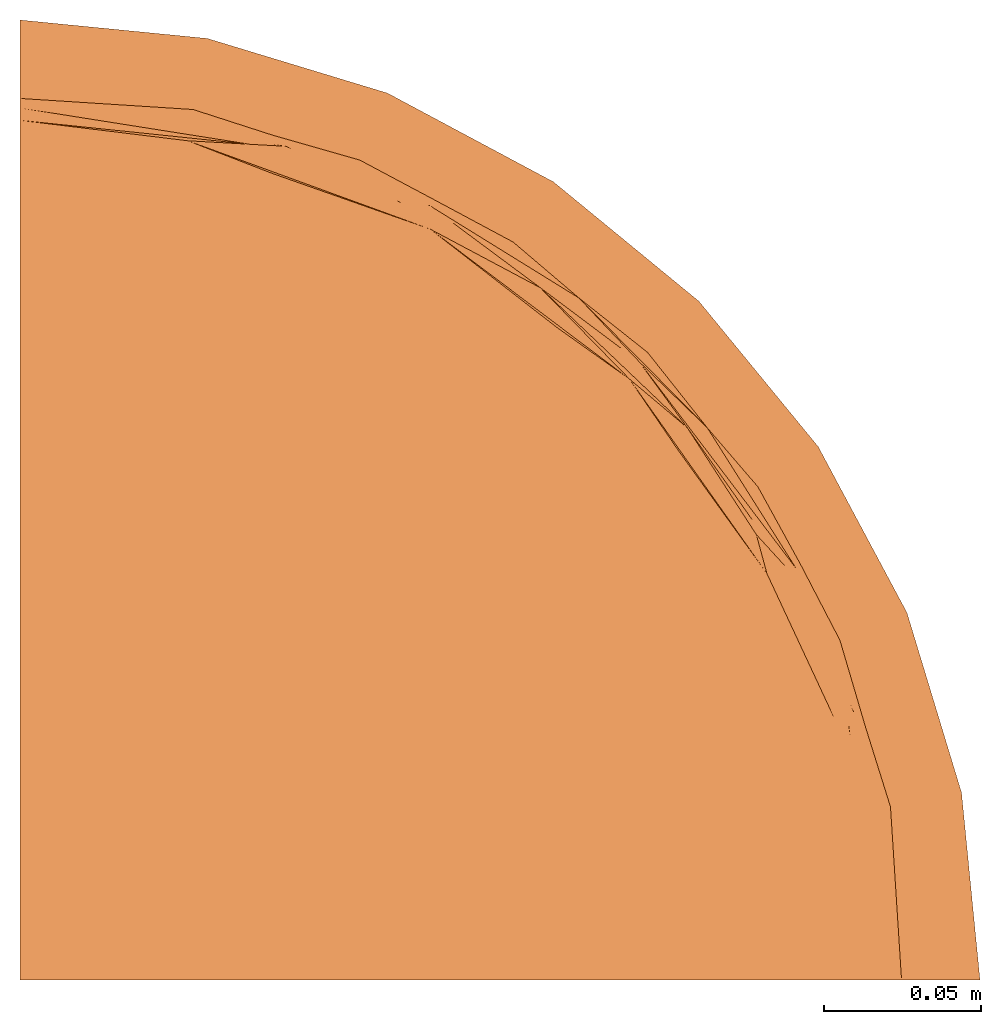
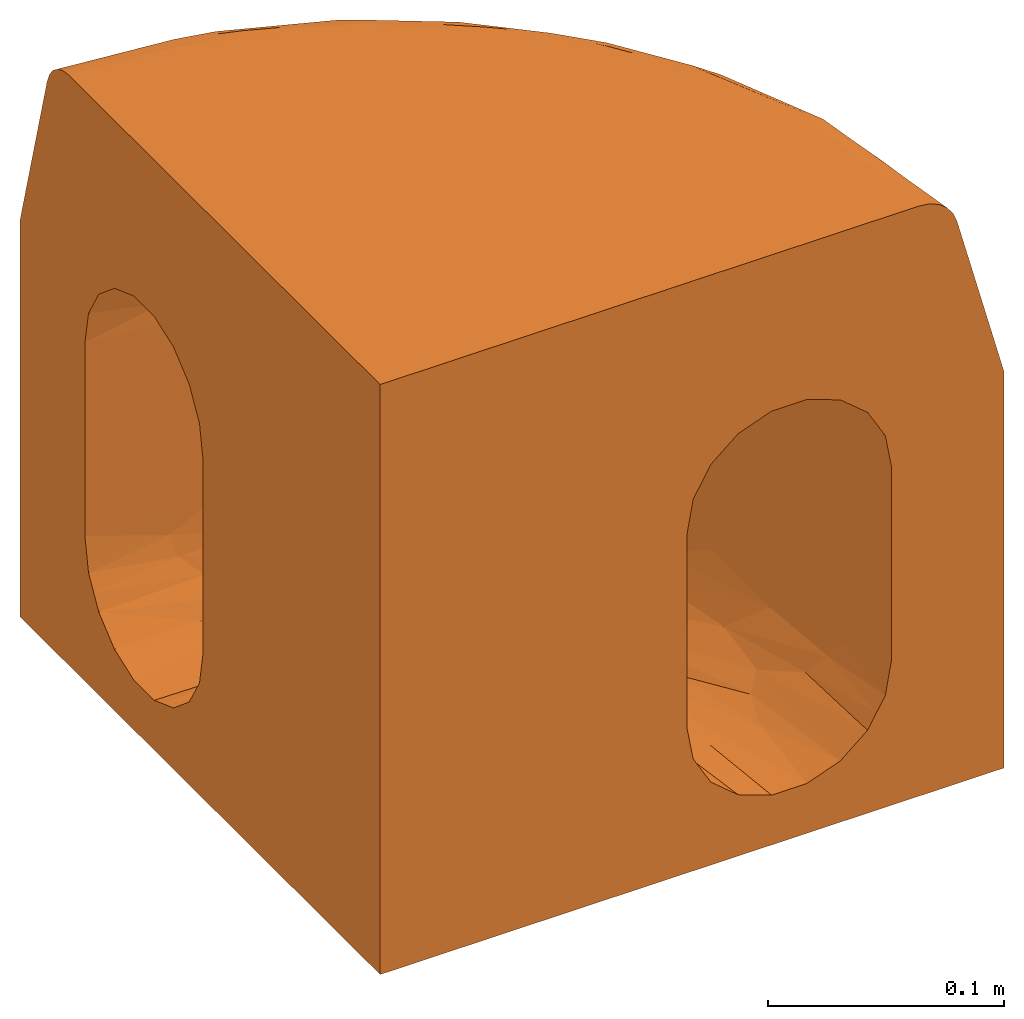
# One storey: 1 proxy.
"""IFC2X3 building model written with IfcOpenShell, lengths in millimetres."""

from ifc_helpers import new_model, entity, si_unit, converted_unit, direction, frame, origin, place, context, subcontext, project, spatial, faceted_brep, source, transform, mapped, material, element, save


model = new_model("IFC2X3")

# Units and contexts
model_context = context("Model", 3, precision=1e-06, world=origin(), true_north=direction((2.0, 6.12303176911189e-17, 1.0)))
context_of_model = context(None, 3, precision=1e-06, world=origin(), true_north=direction((2.0, 6.12303176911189e-17, 1.0)))
body_context = subcontext(model_context, "Body", "Model", "MODEL_VIEW")
ifc_project = project(units=[si_unit("LENGTHUNIT", "METRE", prefix="MILLI"), si_unit("AREAUNIT", "SQUARE_METRE", prefix="MILLI"), si_unit("VOLUMEUNIT", "CUBIC_METRE", prefix="MILLI"), converted_unit("PLANEANGLEUNIT", "DEGREE", entity("IfcRatioMeasure", 0.0174532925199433), si_unit("PLANEANGLEUNIT", "RADIAN"), dimensions=[0, 0, 0, 0, 0, 0, 0]), si_unit("TIMEUNIT", "SECOND")], contexts=[model_context, context_of_model])

# Site, building, storey
site_placement = place(None, origin())
site = spatial("IfcSite", under=ifc_project, at=site_placement, Name="Default", CompositionType="ELEMENT")
building_placement = place(site_placement, origin())
building = spatial("IfcBuilding", under=site, at=building_placement, CompositionType="ELEMENT")
storey_placement = place(building_placement, frame((0.0, 0.0, -300.0)))
storey = spatial("IfcBuildingStorey", under=building, at=storey_placement, Name="T.O. Fnd. Wall", CompositionType="ELEMENT", Elevation=-300.0)

# Proxy
ifc_material = material(Name="ACO Polymer Concrete.")
shared_shape = source(origin(), body_context, "Body", "Brep", [
    faceted_brep([(-152.499999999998, 0.0125862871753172, -180.0), (38.8142625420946, 0.0125862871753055, -154.239800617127), (30.654329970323, 0.0125862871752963, -151.268917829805), (22.4943973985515, 0.0125862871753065, -148.298035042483), (15.8416135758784, 0.0125862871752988, -142.713374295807), (9.18882975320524, 0.0125862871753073, -137.128713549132), (152.500000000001, 0.0125862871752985, -180.0), (56.1733638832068, 0.0125862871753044, -154.241981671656), (-2.49999999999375, 0.012586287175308, -105.0), (-2.49999999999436, 0.012586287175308, -5.0), (-152.5, 0.0125862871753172, 125.0), (0.513804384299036, 0.0125862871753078, -122.096707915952), (72.5019398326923, 0.0125862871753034, -148.300150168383), (64.3376518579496, 0.0125862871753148, -151.27106592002), (94.485129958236, 0.0125862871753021, -122.099636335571), (90.1409608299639, 0.0125862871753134, -129.622743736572), (85.7967917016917, 0.0125862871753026, -137.145851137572), (97.4999999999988, 0.0125862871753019, -105.0), (152.5, 0.0125862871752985, 25.0), (97.4999999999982, 0.0125862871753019, -5.0), (94.4861956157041, 0.0125862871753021, 12.0967079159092), (0.514870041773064, 0.0125862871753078, 12.0996363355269), (4.85903917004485, 0.0125862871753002, 19.622743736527), (9.20320829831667, 0.0125862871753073, 27.1458511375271), (22.4980601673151, 0.0125862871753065, 38.3001501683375), (30.6623481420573, 0.0125862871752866, 41.2710659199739), (111.125867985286, 0.0125862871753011, 125.0), (15.8506342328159, 0.0125862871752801, 32.7230006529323), (38.8266361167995, 0.0125862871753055, 44.2419816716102), (56.1857374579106, 0.0125862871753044, 44.2398006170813), (64.3456700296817, 0.0125862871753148, 41.2689178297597), (72.5056026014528, 0.0125862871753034, 38.298035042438), (116.043429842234, 0.0125862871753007, 124.352590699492), (129.478458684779, 0.0125862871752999, 110.917561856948), (127.580350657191, 0.0125862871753, 115.5), (120.625867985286, 0.0125862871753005, 122.454482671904), (79.1583864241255, 0.012586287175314, 32.7133742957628), (85.8111702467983, 0.0125862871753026, 27.1287135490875), (124.560896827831, 0.0125862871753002, 119.435028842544), (-152.499999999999, 161.701416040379, -137.128713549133), (-152.499999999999, 168.354199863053, -142.713374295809), (-152.499999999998, 175.006983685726, -148.298035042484), (-152.499999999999, 153.026390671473, -122.096707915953), (-152.499999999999, 157.363903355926, -129.612710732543), (-152.499999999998, 183.166916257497, -151.268917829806), (-152.499999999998, 191.326848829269, -154.239800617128), (-152.499999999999, 150.012586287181, -5.0), (-152.499999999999, 150.012586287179, -105.0), (-152.5, 153.026390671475, 12.0967079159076), (-152.499999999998, 208.685950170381, -154.241981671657), (-152.499999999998, 305.012586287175, -180.0), (-152.499999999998, 225.014526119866, -148.300150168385), (-152.499999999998, 238.309377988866, -137.145851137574), (-152.499999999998, 216.850238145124, -151.271065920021), (-152.499999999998, 242.653547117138, -129.622743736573), (-152.499999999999, 246.99771624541, -122.099636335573), (-152.499999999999, 250.012586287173, -105.0), (-152.499999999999, 305.012586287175, 25.0), (-152.499999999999, 250.012586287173, -5.0), (-152.5, 175.006983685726, 38.2980350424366), (-152.5, 168.354199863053, 32.7133742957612), (-152.5, 263.638454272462, 125.0), (-152.5, 208.685950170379, 44.241981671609), (-152.5, 191.326848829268, 44.23980061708), (-152.5, 183.166916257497, 41.2689178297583), (-152.5, 225.014526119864, 38.3001501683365), (-152.5, 216.850238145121, 41.2710659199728), (-152.5, 281.991044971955, 110.917561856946), (-152.5, 161.70141604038, 27.1287135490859), (-152.5, 157.363903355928, 19.6127107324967), (-152.499999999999, 238.309377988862, 27.1458511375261), (-152.5, 280.092936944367, 115.499999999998), (-152.5, 268.55601612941, 124.35259069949), (-152.5, 273.138454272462, 122.454482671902), (-152.499999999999, 246.997716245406, 12.099636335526), (-152.499999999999, 242.653547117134, 19.6227437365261), (-152.5, 277.073483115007, 119.435028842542), (146.639510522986, 59.5151345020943, -180.0), (146.639510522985, 59.5151345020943, 25.0), (129.283257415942, 116.731033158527, 25.0), (129.283257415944, 116.731033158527, -180.0), (101.098231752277, 169.461507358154, -180.0), (101.098231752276, 169.461507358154, 25.0), (63.167568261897, 215.680154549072, 25.0), (63.1675682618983, 215.680154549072, -180.0), (16.9489210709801, 253.610818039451, -180.0), (-35.781553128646, 281.795843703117, -180.0), (-35.7815531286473, 281.795843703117, 25.0), (16.9489210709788, 253.610818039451, 25.0), (-92.9974517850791, 299.15209681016, -180.0), (-92.9974517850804, 299.15209681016, 25.0), (124.060321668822, 55.0238545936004, 110.917561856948), (108.014126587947, 107.921070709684, 110.917561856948), (81.9565197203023, 156.671424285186, 110.917561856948), (46.8888802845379, 199.401466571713, 110.917561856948), (4.15883799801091, 234.469106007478, 110.917561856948), (-44.5915155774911, 260.526712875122, 110.917561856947), (-97.4887316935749, 276.572907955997, 110.917561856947), (-72.1502601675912, 268.393094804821, 115.377840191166), (95.4438625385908, 132.129363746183, 113.809714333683), (116.072362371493, 80.5451133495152, 114.948769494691), (112.320839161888, 85.2848225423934, 118.176626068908), (91.0585436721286, 100.897838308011, 125.0), (82.2219274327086, 126.569526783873, 124.755114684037), (66.6968982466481, 146.475271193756, 125.0), (44.2792868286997, 196.367877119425, 118.43868590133), (94.077412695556, 130.771863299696, 117.021006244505), (65.8927358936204, 175.404697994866, 115.460384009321), (25.0682015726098, 216.700638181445, 115.37784019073), (106.060370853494, 51.4434417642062, 125.0), (103.105854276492, 79.816362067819, 124.5416222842), (110.797164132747, 80.7655076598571, 120.910247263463), (106.372921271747, 82.8375526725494, 123.151846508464), (56.4606094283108, 168.515368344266, 124.381119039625), (-31.4566967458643, 246.995647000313, 121.18240305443), (-99.2124311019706, 266.644737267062, 123.101397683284), (-22.1803163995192, 238.57166769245, 123.135595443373), (90.2996828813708, 131.823266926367, 120.180872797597), (84.8113143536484, 129.126736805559, 123.840634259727), (41.1672499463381, 190.905066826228, 123.088308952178), (18.211218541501, 207.230692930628, 124.369393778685), (-101.069144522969, 258.57295714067, 125.0), (-72.1573079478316, 256.189704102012, 124.369393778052), (33.9116389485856, 186.424225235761, 125.0), (81.4320325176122, 141.52695633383, 122.289897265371), (-20.6010323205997, 247.743858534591, 114.423451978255), (-22.3023767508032, 246.00647834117, 118.039771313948), (-79.4353358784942, 265.524795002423, 120.926361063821), (-68.023713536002, 264.888011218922, 118.401737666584), (12.7968688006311, 219.955399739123, 121.119433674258), (-6.03731509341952, 219.209484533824, 125.0), (-25.5422035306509, 235.1342616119, 124.659136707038), (-51.6147479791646, 243.571129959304, 125.0), (59.5043667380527, 175.469047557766, 121.073713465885), (91.2319780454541, 55.6428197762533, -5.0), (91.2319780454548, 55.6428197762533, -105.0), (72.7422169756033, 108.483521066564, -5.0), (72.7422169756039, 108.483521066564, -105.0), (42.9578706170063, 155.885036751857, -5.0), (42.9578706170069, 155.885036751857, -105.0), (3.37245046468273, 195.470456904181, -5.0), (3.37245046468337, 195.470456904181, -105.0), (-44.0290652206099, 225.254803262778, -105.0), (-44.0290652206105, 225.254803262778, -5.0), (-96.8697665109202, 243.744564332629, -105.0), (-96.8697665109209, 243.744564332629, -5.0), (82.8238104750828, 77.7464172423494, 9.5693163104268), (93.3534261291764, 38.7491538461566, 5.49390844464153), (-5.54229354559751, 100.42203623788, 39.8924874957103), (2.16170758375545, 69.8281505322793, 34.7650745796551), (-29.1061320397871, 112.84961178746, 32.7442835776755), (-116.660577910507, 151.010640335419, 17.1886327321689), (-104.093644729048, 155.105413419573, 28.0394492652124), (-62.6465015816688, 133.185495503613, 25.8486519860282), (-21.3892638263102, 211.571302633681, 5.4687319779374), (22.7424667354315, 175.255052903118, 9.56931629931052), (-105.132857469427, 187.149956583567, 44.5130687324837), (-69.1817161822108, 174.747737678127, 44.5864885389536), (-93.7118347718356, 175.092896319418, 42.5972866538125), (83.0522905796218, 50.3915301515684, 23.790082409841), (59.0587164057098, 131.123322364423, 5.46873198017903), (-1.82332399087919, 49.1921886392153, 22.8874371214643), (7.33007323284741, 38.9804594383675, 30.2220232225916), (39.1387553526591, 36.3850363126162, 44.7553563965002), (38.6737961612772, 65.4003968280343, 44.9580807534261), (27.3824018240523, 71.0572967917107, 44.5629915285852), (-46.4339828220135, 106.078603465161, -5.0), (-77.4999999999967, 129.916396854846, -5.0), (-44.6678961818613, 107.327738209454, 9.44661245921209), (-28.5963305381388, 97.8983130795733, 21.9804226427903), (-13.1675490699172, 61.7278842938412, 10.2696508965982), (62.0651453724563, 39.8058394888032, 41.5605694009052), (-74.7661689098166, 235.336396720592, 9.56931630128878), (-7.61112605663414, 38.8354430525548, -5.0), (-22.5961894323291, 75.0125862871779, -5.0), (-68.336204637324, 193.197432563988, 43.8367706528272), (-48.9293128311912, 175.746462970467, 44.8410618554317), (-87.0994948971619, 191.169257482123, 44.9585748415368), (63.1220180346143, 66.7098941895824, 37.8883203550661), (-108.527889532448, 211.264247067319, 42.4447685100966), (-10.6824845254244, 79.7154717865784, 28.2747941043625), (66.4226186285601, 98.2460335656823, 25.0640020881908), (42.5006867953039, 136.71669973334, 27.3252269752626), (56.5149716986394, 127.271331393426, 17.3872102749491), (22.5861958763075, 58.8090683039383, 42.5999327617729), (15.3515485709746, 174.17876835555, 22.3076492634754), (16.0153047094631, 35.8663102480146, 36.6173477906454), (11.9924145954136, 164.505000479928, 32.8873666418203), (-24.8329697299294, 199.732690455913, 28.5885415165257), (-25.2412546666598, 209.027557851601, 17.3872102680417), (-59.3944615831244, 221.84086246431, 24.217347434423), (-84.1474133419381, 223.465904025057, 31.9604222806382), (-105.151531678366, 235.307602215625, 24.9843774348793), (-116.665040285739, 246.414200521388, 4.98048302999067), (-25.9268748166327, 189.40631748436, 36.5621953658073), (90.0574201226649, 38.9647065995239, 15.3640213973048), (-112.542323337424, 242.548149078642, 15.0474134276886), (-61.5299832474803, 125.668213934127, 17.0580355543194), (-90.55082460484, 139.482933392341, 10.9419658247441), (-113.67714323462, 144.901460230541, -5.0), (-60.9891869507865, 199.762232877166, 40.9496074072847), (-25.5299482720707, 178.530038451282, 41.2221907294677), (70.9636733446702, 68.364874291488, 31.9514773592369), (40.1710713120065, 123.591378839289, 35.803927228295), (-52.6746648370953, 156.216650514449, 42.8140322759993), (-113.317665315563, 166.340079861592, 35.6453611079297), (47.2603093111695, 91.5182005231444, 40.9463766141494), (-32.3903794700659, 154.955922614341, 44.8433578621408), (21.5489424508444, 119.25240703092, 43.7802418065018), (5.04859412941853, 121.019631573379, 44.9819373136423), (-14.8375404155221, 154.859032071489, 44.4801005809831), (6.54753912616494, 152.715452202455, 40.6103541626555), (28.9336800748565, 123.532316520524, 41.0455130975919), (9.99846720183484, 96.8987529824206, 43.8173524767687), (-37.5457463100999, 134.153086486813, 39.2172471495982), (-71.4236391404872, 149.437454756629, 35.0025753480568), (74.285867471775, 92.027284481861, 17.3198106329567), (-91.4861120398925, 216.70325432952, 38.23366854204), (40.1639928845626, 85.2293443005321, 43.8485249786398), (-17.0072560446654, 129.166782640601, 43.3304774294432), (-7.61112605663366, 38.8354430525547, -105.0), (-22.5961894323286, 75.0125862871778, -105.0), (-46.433982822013, 106.078603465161, -105.0), (-77.4999999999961, 129.916396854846, -105.0), (-113.677143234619, 144.901460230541, -105.0), (17.0881364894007, 39.6830513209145, -147.809078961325), (2.16936524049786, 69.7824097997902, -144.756051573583), (9.74450726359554, 34.499823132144, -141.539026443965), (-13.1674307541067, 61.7280900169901, -120.270247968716), (-111.059935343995, 223.271237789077, -147.036953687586), (-1.83019933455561, 49.2078094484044, -132.884924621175), (-10.6850078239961, 79.7135507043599, -138.271271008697), (47.2498328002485, 91.5229615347, -150.949613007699), (36.8938056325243, 126.58542021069, -146.562262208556), (26.0163805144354, 126.983332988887, -151.222384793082), (-44.6699297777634, 107.330113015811, -119.447387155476), (-28.5958072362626, 97.8988489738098, -131.981581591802), (34.9628390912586, 45.9893260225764, -154.510200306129), (22.5814824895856, 82.5727147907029, -154.584946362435), (22.5803128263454, 58.8007423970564, -152.597286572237), (-115.742144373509, 191.389766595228, -154.736676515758), (-87.099616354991, 191.169294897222, -154.958575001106), (11.9922395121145, 164.504825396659, -142.887579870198), (47.219850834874, 127.679827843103, -138.588651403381), (21.6657595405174, 167.864423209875, -132.307808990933), (82.7950521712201, 47.3613197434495, -134.984260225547), (69.3279409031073, 93.1186385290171, -134.217500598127), (70.9533538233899, 68.3650451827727, -141.960424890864), (93.9016150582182, 35.8475414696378, -114.980482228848), (22.742455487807, 175.255041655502, -119.569368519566), (-25.2413099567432, 209.027512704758, -127.387344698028), (58.9368318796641, 43.7564285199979, -152.399680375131), (40.8765774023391, 83.7923213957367, -153.831756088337), (38.6567088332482, 65.4129694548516, -154.958574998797), (-84.1475408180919, 223.465939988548, -141.960424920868), (-28.9284479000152, 192.685875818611, -145.805373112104), (-54.2895001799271, 218.944164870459, -135.065621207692), (56.5149265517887, 127.271276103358, -127.387344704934), (82.8238006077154, 77.7463964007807, -119.569368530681), (59.0587082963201, 131.123302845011, -115.468812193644), (-74.7661897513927, 235.336386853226, -119.569368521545), (-113.767197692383, 245.86651320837, -115.494333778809), (-80.7023555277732, 179.59622539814, -154.563045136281), (-15.7966581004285, 195.013540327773, -137.32549138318), (-112.710234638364, 214.570337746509, -151.563663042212), (-90.5508246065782, 139.48293339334, -120.941965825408), (-103.521142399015, 154.187414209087, -137.222590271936), (-73.8068183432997, 150.627349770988, -144.950103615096), (-116.911428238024, 165.916550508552, -144.756570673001), (23.422404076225, 103.457007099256, -154.833098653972), (-111.362462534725, 242.25948731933, -125.251897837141), (-59.5938377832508, 131.849867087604, -136.640071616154), (-60.9896241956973, 199.762418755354, -150.949613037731), (-21.3892833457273, 211.571294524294, -115.468812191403), (4.1650168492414, 99.4150510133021, -152.863179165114), (-29.8686511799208, 115.853116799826, -143.985884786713), (-49.7809902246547, 146.160340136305, -150.205359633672), (90.0355733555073, 39.9701937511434, -125.047415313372), (-22.5112069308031, 134.741993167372, -153.337556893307), (-19.6906109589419, 118.064468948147, -149.747848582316), (2.79884793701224, 119.810189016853, -154.850445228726), (-33.2749755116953, 174.007265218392, -153.792166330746), (-31.2129642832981, 157.287436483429, -154.980674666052), (2.52693967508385, 137.492570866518, -154.47809112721), (0.197907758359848, 159.061517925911, -150.611445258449), (-102.144089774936, 235.55696787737, -133.807894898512), (-29.0020637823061, 181.402473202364, -151.065995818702), (-67.2768848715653, 192.663437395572, -153.850587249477), (-55.1629977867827, 162.036039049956, -153.778029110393), (-93.7118432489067, 175.092898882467, -152.597286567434), (7.76666637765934, 77.2045767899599, -149.844653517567), (-60.4858676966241, 226.798560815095, -127.320038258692), (-55.4970219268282, 121.779686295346, -128.149338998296), (64.1224482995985, 61.4115797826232, -148.210961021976), (-119.996357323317, 151.713065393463, -127.088440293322), (-86.5857665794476, 142.377346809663, -130.317218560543)], [[[0, 1, 2, 3]], [[0, 3, 4, 5]], [[1, 0, 6, 7]], [[0, 8, 9, 10]], [[0, 5, 11]], [[0, 11, 8]], [[6, 12, 13, 7]], [[6, 14, 15, 16]], [[12, 6, 16]], [[17, 6, 18, 19]], [[6, 17, 14]], [[20, 19, 18]], [[10, 21, 22, 23]], [[24, 25, 26, 10]], [[10, 23, 27, 24]], [[28, 29, 26]], [[26, 29, 30, 31]], [[10, 9, 21]], [[32, 33, 34, 35]], [[33, 31, 36, 37]], [[18, 33, 37, 20]], [[35, 34, 38]], [[33, 32, 26, 31]], [[0, 39, 40, 41]], [[0, 42, 43, 39]], [[0, 41, 44, 45]], [[46, 47, 0, 10]], [[48, 46, 10]], [[47, 42, 0]], [[45, 49, 50, 0]], [[50, 51, 52]], [[50, 49, 53, 51]], [[50, 52, 54, 55]], [[56, 57, 50, 55]], [[57, 56, 58]], [[59, 60, 10, 61]], [[62, 63, 61]], [[61, 63, 64, 59]], [[65, 66, 61, 67]], [[10, 68, 69, 48]], [[70, 65, 67, 57]], [[71, 67, 72, 73]], [[57, 74, 75, 70]], [[74, 57, 58]], [[76, 71, 73]], [[72, 67, 61]], [[18, 6, 77, 78]], [[79, 80, 81, 82]], [[77, 80, 79, 78]], [[83, 82, 81, 84]], [[85, 86, 87, 88]], [[86, 89, 90, 87]], [[89, 50, 57, 90]], [[88, 83, 84, 85]], [[18, 78, 91, 33]], [[78, 79, 92, 91]], [[79, 82, 93, 92]], [[83, 94, 93, 82]], [[95, 88, 87, 96]], [[96, 87, 90, 97]], [[97, 90, 57, 67]], [[95, 94, 83, 88]], [[33, 91, 34]], [[97, 98, 96]], [[99, 100, 92]], [[100, 101, 34]], [[102, 103, 104]], [[105, 106, 107]], [[94, 108, 107]], [[100, 91, 92]], [[102, 109, 110]], [[108, 94, 95]], [[111, 112, 35]], [[93, 99, 92]], [[113, 104, 103]], [[101, 38, 34]], [[114, 115, 116]], [[26, 32, 109]], [[111, 101, 117]], [[118, 103, 110]], [[119, 116, 120]], [[72, 121, 122]], [[35, 38, 111]], [[120, 113, 119]], [[104, 113, 123]], [[111, 124, 112]], [[95, 96, 125]], [[115, 72, 122]], [[125, 126, 108]], [[76, 73, 127]], [[128, 76, 127]], [[71, 97, 67]], [[101, 100, 106]], [[32, 35, 112]], [[129, 116, 119]], [[98, 128, 126]], [[123, 120, 130]], [[131, 116, 122]], [[128, 71, 76]], [[97, 71, 98]], [[129, 114, 116]], [[131, 122, 132]], [[107, 106, 99]], [[61, 121, 72]], [[115, 127, 73]], [[122, 121, 132]], [[131, 130, 120]], [[126, 129, 105]], [[109, 32, 110]], [[98, 125, 96]], [[34, 91, 100]], [[112, 118, 110]], [[110, 103, 102]], [[113, 103, 118]], [[118, 124, 119]], [[123, 113, 120]], [[118, 119, 113]], [[119, 133, 129]], [[129, 133, 105]], [[126, 128, 114]], [[112, 110, 32]], [[124, 111, 117]], [[93, 94, 107]], [[100, 99, 106]], [[107, 99, 93]], [[105, 107, 108]], [[105, 108, 126]], [[105, 133, 117]], [[117, 101, 106]], [[38, 101, 111]], [[126, 125, 98]], [[95, 125, 108]], [[126, 114, 129]], [[115, 114, 127]], [[130, 131, 132]], [[116, 131, 120]], [[105, 117, 106]], [[124, 117, 133]], [[119, 124, 133]], [[112, 124, 118]], [[128, 98, 71]], [[114, 128, 127]], [[72, 115, 73]], [[116, 115, 122]], [[134, 135, 17, 19]], [[136, 137, 135, 134]], [[138, 139, 137, 136]], [[139, 138, 140, 141]], [[142, 141, 140, 143]], [[144, 142, 143, 145]], [[56, 144, 145, 58]], [[136, 134, 146]], [[134, 19, 147]], [[148, 149, 150]], [[151, 152, 153]], [[154, 140, 155]], [[156, 157, 158]], [[159, 37, 36]], [[136, 160, 138]], [[161, 162, 23]], [[146, 160, 136]], [[29, 163, 164]], [[165, 164, 163]], [[156, 63, 62]], [[25, 163, 28]], [[166, 167, 168]], [[169, 161, 170]], [[30, 29, 171, 31]], [[172, 145, 143]], [[170, 168, 169]], [[173, 174, 170]], [[175, 176, 177]], [[21, 9, 173]], [[171, 178, 31]], [[62, 179, 177]], [[169, 180, 161]], [[181, 182, 183]], [[138, 155, 140]], [[149, 148, 184]], [[185, 155, 183]], [[27, 186, 24]], [[187, 188, 185]], [[179, 175, 177]], [[172, 154, 189]], [[154, 143, 140]], [[190, 188, 191]], [[191, 192, 190]], [[193, 145, 172]], [[65, 70, 191]], [[187, 194, 188]], [[74, 58, 193]], [[195, 147, 20]], [[193, 196, 74]], [[197, 198, 151]], [[168, 174, 166]], [[153, 150, 169]], [[48, 199, 46]], [[167, 199, 198]], [[29, 164, 171]], [[200, 194, 201]], [[170, 174, 168]], [[170, 21, 173]], [[198, 199, 48]], [[202, 203, 181]], [[204, 158, 157]], [[152, 68, 205]], [[189, 155, 185]], [[183, 155, 160]], [[206, 178, 171]], [[64, 158, 59]], [[146, 134, 147]], [[207, 157, 176]], [[208, 209, 210]], [[187, 211, 194]], [[181, 159, 202]], [[185, 183, 182]], [[211, 212, 208]], [[213, 184, 148]], [[158, 64, 156]], [[204, 214, 215]], [[165, 213, 209]], [[162, 186, 27]], [[161, 180, 162]], [[162, 149, 186]], [[138, 160, 155]], [[216, 183, 160]], [[143, 154, 172]], [[189, 154, 155]], [[153, 169, 197]], [[198, 168, 167]], [[189, 185, 188]], [[182, 187, 185]], [[189, 188, 190]], [[194, 217, 191]], [[188, 194, 191]], [[211, 201, 194]], [[210, 211, 208]], [[203, 212, 211]], [[209, 207, 210]], [[218, 212, 206]], [[219, 209, 213]], [[164, 209, 218]], [[187, 182, 203]], [[181, 203, 182]], [[187, 203, 211]], [[178, 206, 203]], [[36, 31, 202]], [[181, 183, 216]], [[20, 37, 195]], [[216, 195, 159]], [[148, 219, 213]], [[184, 213, 165]], [[148, 214, 219]], [[180, 169, 150]], [[148, 150, 214]], [[215, 150, 153]], [[219, 214, 204]], [[215, 214, 150]], [[215, 153, 152]], [[198, 197, 168]], [[207, 219, 204]], [[158, 204, 215]], [[219, 207, 209]], [[210, 207, 176]], [[215, 152, 205]], [[48, 151, 198]], [[215, 205, 158]], [[205, 68, 60, 59]], [[204, 157, 207]], [[177, 157, 156]], [[177, 156, 62]], [[64, 63, 156]], [[176, 175, 201]], [[177, 176, 157]], [[210, 176, 201]], [[179, 200, 175]], [[200, 179, 217]], [[66, 65, 179, 62]], [[200, 217, 194]], [[191, 217, 65]], [[190, 172, 189]], [[70, 192, 191]], [[190, 196, 172]], [[196, 192, 75]], [[75, 74, 196]], [[192, 70, 75]], [[192, 196, 190]], [[196, 193, 172]], [[145, 193, 58]], [[181, 216, 159]], [[146, 216, 160]], [[25, 24, 184]], [[164, 165, 209]], [[165, 163, 184]], [[28, 163, 29]], [[151, 48, 69]], [[69, 68, 152]], [[151, 69, 152]], [[200, 201, 175]], [[201, 211, 210]], [[178, 202, 31]], [[218, 206, 171]], [[149, 184, 186]], [[184, 24, 186]], [[149, 162, 180]], [[22, 21, 161, 23]], [[23, 162, 27]], [[195, 216, 146]], [[20, 147, 19]], [[147, 195, 146]], [[159, 195, 37]], [[202, 159, 36]], [[205, 59, 158]], [[184, 163, 25]], [[170, 161, 21]], [[149, 180, 150]], [[208, 212, 218]], [[206, 212, 203]], [[208, 218, 209]], [[164, 218, 171]], [[168, 197, 169]], [[153, 197, 151]], [[217, 179, 65]], [[202, 178, 203]], [[8, 220, 173, 9]], [[166, 174, 221, 222]], [[174, 173, 220, 221]], [[167, 223, 224, 199]], [[199, 224, 47, 46]], [[223, 167, 166, 222]], [[225, 226, 227]], [[228, 220, 11]], [[51, 229, 52]], [[230, 227, 231]], [[11, 220, 8]], [[232, 233, 234]], [[221, 220, 228]], [[221, 235, 222]], [[236, 228, 230]], [[237, 238, 239]], [[49, 240, 241]], [[242, 243, 244]], [[245, 246, 247]], [[242, 233, 243]], [[248, 14, 17]], [[3, 2, 225]], [[247, 12, 16]], [[246, 243, 247]], [[249, 250, 244]], [[251, 252, 253]], [[254, 255, 256]], [[257, 258, 259]], [[237, 1, 7]], [[139, 259, 137]], [[260, 144, 261]], [[241, 240, 262]], [[235, 221, 228]], [[256, 263, 250]], [[42, 47, 224]], [[49, 241, 264]], [[223, 265, 224]], [[235, 265, 223]], [[224, 265, 42]], [[258, 135, 137]], [[44, 240, 45]], [[228, 236, 235]], [[266, 267, 268]], [[252, 269, 253]], [[270, 260, 261]], [[266, 271, 267]], [[139, 249, 259]], [[53, 49, 264, 51]], [[141, 249, 139]], [[229, 254, 52]], [[229, 264, 272]], [[142, 260, 273]], [[273, 250, 249]], [[266, 39, 43]], [[144, 260, 142]], [[274, 239, 238]], [[56, 261, 144]], [[271, 275, 267]], [[267, 275, 276]], [[273, 141, 142]], [[248, 277, 14]], [[251, 253, 7]], [[248, 135, 258]], [[230, 228, 11]], [[257, 249, 244]], [[278, 276, 279]], [[280, 238, 269]], [[281, 282, 283]], [[242, 284, 233]], [[256, 285, 254]], [[244, 250, 263]], [[281, 286, 287]], [[288, 289, 276]], [[225, 290, 226]], [[290, 274, 279]], [[262, 288, 282]], [[267, 289, 268]], [[236, 230, 231]], [[5, 230, 11]], [[137, 259, 258]], [[257, 259, 249]], [[141, 273, 249]], [[291, 250, 273]], [[222, 235, 223]], [[271, 292, 236]], [[257, 244, 243]], [[263, 242, 244]], [[257, 243, 246]], [[233, 293, 247]], [[243, 233, 247]], [[284, 234, 233]], [[283, 284, 281]], [[255, 286, 284]], [[282, 280, 283]], [[287, 286, 272]], [[278, 282, 288]], [[282, 281, 241]], [[242, 263, 255]], [[256, 255, 263]], [[242, 255, 284]], [[272, 255, 254]], [[52, 254, 285]], [[256, 250, 291]], [[270, 54, 285]], [[291, 270, 285]], [[278, 288, 276]], [[289, 288, 262]], [[275, 279, 276]], [[267, 276, 289]], [[226, 275, 231]], [[236, 275, 271]], [[278, 279, 274]], [[279, 275, 226]], [[280, 278, 274]], [[239, 274, 290]], [[278, 280, 282]], [[283, 280, 269]], [[235, 236, 292]], [[43, 42, 294]], [[295, 292, 271]], [[40, 39, 268, 41]], [[266, 268, 39]], [[289, 41, 268]], [[274, 238, 280]], [[253, 238, 237]], [[253, 237, 7]], [[2, 1, 237]], [[269, 252, 234]], [[253, 269, 238]], [[283, 269, 234]], [[251, 232, 252]], [[232, 251, 293]], [[13, 12, 251, 7]], [[232, 293, 233]], [[247, 293, 12]], [[246, 258, 257]], [[16, 245, 247]], [[246, 277, 258]], [[277, 245, 15]], [[15, 14, 277]], [[245, 16, 15]], [[245, 277, 246]], [[277, 248, 258]], [[135, 248, 17]], [[256, 291, 285]], [[260, 291, 273]], [[239, 2, 237]], [[226, 290, 279]], [[290, 225, 239]], [[227, 4, 225]], [[44, 41, 289]], [[5, 227, 230]], [[3, 225, 4]], [[227, 5, 4]], [[241, 262, 282]], [[262, 240, 289]], [[45, 240, 49]], [[232, 234, 252]], [[234, 284, 283]], [[51, 264, 229]], [[287, 272, 264]], [[270, 291, 260]], [[55, 261, 56]], [[239, 225, 2]], [[270, 261, 55]], [[52, 285, 54]], [[270, 55, 54]], [[289, 240, 44]], [[236, 231, 275]], [[226, 231, 227]], [[272, 286, 255]], [[286, 281, 284]], [[287, 241, 281]], [[241, 287, 264]], [[292, 265, 235]], [[265, 292, 295]], [[295, 266, 294]], [[266, 295, 271]], [[42, 265, 294]], [[43, 294, 266]], [[295, 294, 265]], [[293, 251, 12]], [[254, 229, 272]], [[130, 132, 10, 123]], [[121, 61, 10, 132]], [[10, 109, 102, 104]], [[104, 123, 10]], [[26, 109, 10]], [[0, 86, 85, 84]], [[0, 50, 89, 86]], [[0, 80, 77, 6]], [[0, 84, 81, 80]], [[26, 25, 28]], [[10, 60, 68]], [[61, 66, 62]]]),
])
proxy_placement = place(storey_placement, frame((-4010.98705540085, -6177.33245691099, 300.0)))
element("IfcBuildingElementProxy", 1, at=proxy_placement, inside=storey, material=ifc_material, Name="Civil-Drainage-Channel-ACO-KerbDrain-HB305 Part 2:4992 - Quadrant:4992 - Quadrant", ObjectType="4992 - Quadrant", CompositionType="ELEMENT", context=body_context, shape_type="MappedRepresentation", body=[
    mapped(shared_shape, transform((0.0, 0.0, 0.0), scale=1.0)),
])

save(model, "model.ifc")
